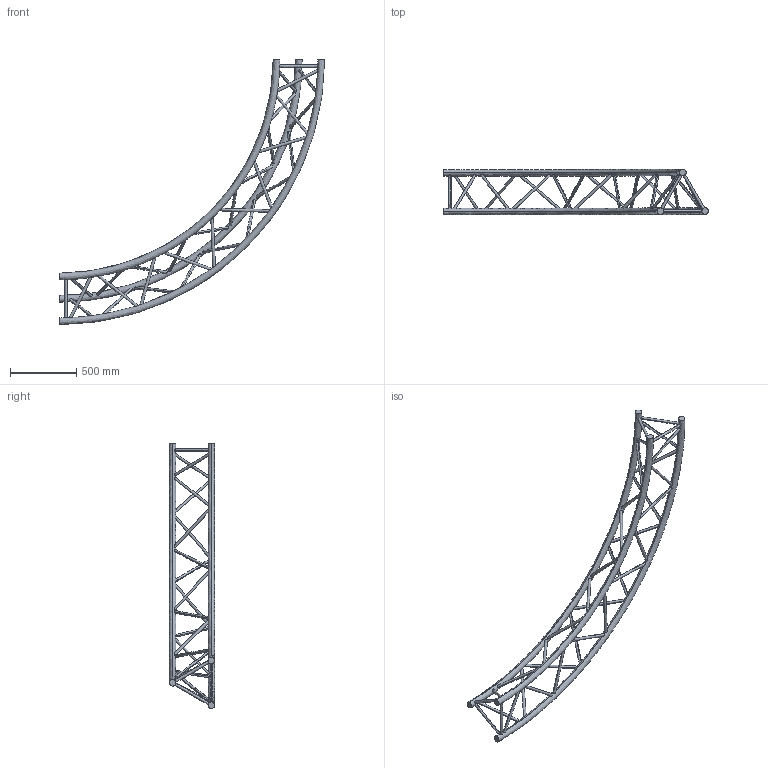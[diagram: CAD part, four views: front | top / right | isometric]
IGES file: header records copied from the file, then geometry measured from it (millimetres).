
Start section: SolidWorks IGES file using analytic representation for surfaces
Global section: file name: K:\BIBLIO\asd_biblio\SX390\Cercles\SXC39PH\SXC39400PH\SXC39400PH.IGS; native system: SolidWorks 2009; preprocessor: SolidWorks 2009; author: des3; date: 091021.132541; units: millimetre
Bounding box: 2000 x 341.85 x 2000 mm (x, y, z)
Surface area: 2120471.9 mm2 (no closed solid volume)
Topology: 0 solids, 0 shells, 84 faces, 6175 edges, 6175 vertices
Faces by surface type: revolution 72, bspline 12
